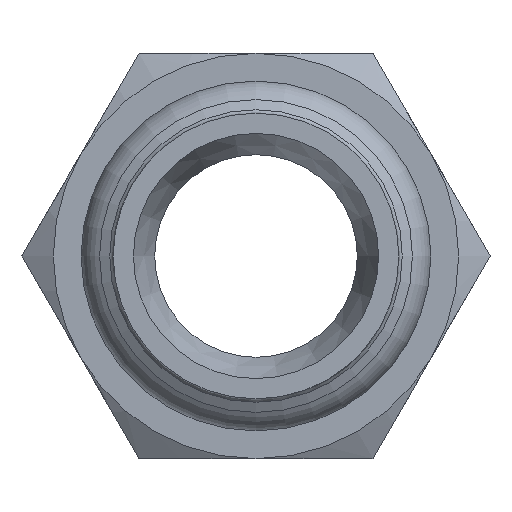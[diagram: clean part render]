
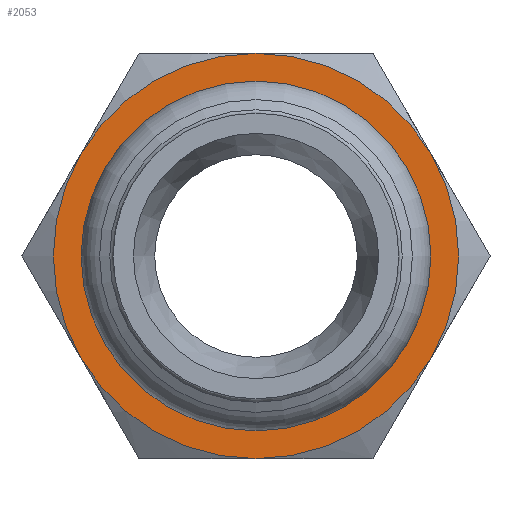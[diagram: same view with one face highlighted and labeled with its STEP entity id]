
A CAD part, left-side view. The second image highlights one B-rep face of the part: STEP entity #2053.
In plain terms, the highlighted planar face has unit normal (-1, 0, 0) as drawn and (0, 0, -1) by its records, which use the part's own axes.
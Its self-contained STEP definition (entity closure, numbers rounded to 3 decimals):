
#1243=CARTESIAN_POINT('',(-12.99,7.5,0.));
#1244=VERTEX_POINT('',#1243);
#1258=CARTESIAN_POINT('',(0.,15.,0.));
#1259=VERTEX_POINT('',#1258);
#1273=CARTESIAN_POINT('',(0.0,0.0,0.0));
#1274=DIRECTION('',(0.0,0.0,-1.0));
#1275=DIRECTION('',(1.0,0.0,0.0));
#1276=AXIS2_PLACEMENT_3D('',#1273,#1274,#1275);
#1277=CIRCLE('',#1276,15.);
#1278=EDGE_CURVE('',#1244,#1259,#1277,.T.);
#1290=CARTESIAN_POINT('',(-12.99,-7.5,0.));
#1291=VERTEX_POINT('',#1290);
#1318=CARTESIAN_POINT('',(0.0,0.0,0.0));
#1319=DIRECTION('',(0.0,0.0,-1.0));
#1320=DIRECTION('',(1.0,0.0,0.0));
#1321=AXIS2_PLACEMENT_3D('',#1318,#1319,#1320);
#1322=CIRCLE('',#1321,15.);
#1323=EDGE_CURVE('',#1291,#1244,#1322,.T.);
#1335=CARTESIAN_POINT('',(0.,-15.,0.));
#1336=VERTEX_POINT('',#1335);
#1363=CARTESIAN_POINT('',(0.0,0.0,0.0));
#1364=DIRECTION('',(0.0,0.0,-1.0));
#1365=DIRECTION('',(1.0,0.0,0.0));
#1366=AXIS2_PLACEMENT_3D('',#1363,#1364,#1365);
#1367=CIRCLE('',#1366,15.);
#1368=EDGE_CURVE('',#1336,#1291,#1367,.T.);
#1393=CARTESIAN_POINT('',(12.99,-7.5,0.));
#1394=VERTEX_POINT('',#1393);
#1395=CARTESIAN_POINT('',(0.0,0.0,0.0));
#1396=DIRECTION('',(0.0,0.0,-1.0));
#1397=DIRECTION('',(1.0,0.0,0.0));
#1398=AXIS2_PLACEMENT_3D('',#1395,#1396,#1397);
#1399=CIRCLE('',#1398,15.);
#1400=EDGE_CURVE('',#1394,#1336,#1399,.T.);
#1438=CARTESIAN_POINT('',(12.99,7.5,0.));
#1439=VERTEX_POINT('',#1438);
#1440=CARTESIAN_POINT('',(0.0,0.0,0.0));
#1441=DIRECTION('',(0.0,0.0,-1.0));
#1442=DIRECTION('',(1.0,0.0,0.0));
#1443=AXIS2_PLACEMENT_3D('',#1440,#1441,#1442);
#1444=CIRCLE('',#1443,15.);
#1445=EDGE_CURVE('',#1439,#1394,#1444,.T.);
#1483=CARTESIAN_POINT('',(0.0,0.0,0.0));
#1484=DIRECTION('',(0.0,0.0,-1.0));
#1485=DIRECTION('',(1.0,0.0,0.0));
#1486=AXIS2_PLACEMENT_3D('',#1483,#1484,#1485);
#1487=CIRCLE('',#1486,15.);
#1488=EDGE_CURVE('',#1259,#1439,#1487,.T.);
#1961=CARTESIAN_POINT('',(-10.75,0.0,0.0));
#1962=VERTEX_POINT('',#1961);
#1963=CARTESIAN_POINT('',(0.0,0.0,0.0));
#1964=DIRECTION('',(0.0,0.0,1.0));
#1965=DIRECTION('',(-1.0,0.0,0.0));
#1966=AXIS2_PLACEMENT_3D('',#1963,#1964,#1965);
#1967=CIRCLE('',#1966,10.75);
#1968=EDGE_CURVE('',#1962,#1962,#1967,.T.);
#2037=CARTESIAN_POINT('',(0.,0.,0.0));
#2038=DIRECTION('',(0.0,0.0,1.0));
#2039=DIRECTION('',(1.0,0.0,0.0));
#2040=AXIS2_PLACEMENT_3D('',#2037,#2038,#2039);
#2041=PLANE('',#2040);
#2042=ORIENTED_EDGE('',*,*,#1488,.T.);
#2043=ORIENTED_EDGE('',*,*,#1445,.T.);
#2044=ORIENTED_EDGE('',*,*,#1400,.T.);
#2045=ORIENTED_EDGE('',*,*,#1368,.T.);
#2046=ORIENTED_EDGE('',*,*,#1323,.T.);
#2047=ORIENTED_EDGE('',*,*,#1278,.T.);
#2048=EDGE_LOOP('',(#2042,#2043,#2044,#2045,#2046,#2047));
#2049=FACE_OUTER_BOUND('',#2048,.T.);
#2050=ORIENTED_EDGE('',*,*,#1968,.T.);
#2051=EDGE_LOOP('',(#2050));
#2052=FACE_BOUND('',#2051,.T.);
#2053=ADVANCED_FACE('',(#2049,#2052),#2041,.F.);
